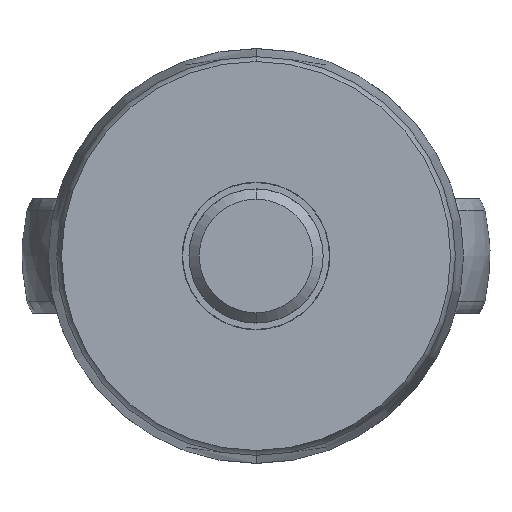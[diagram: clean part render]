
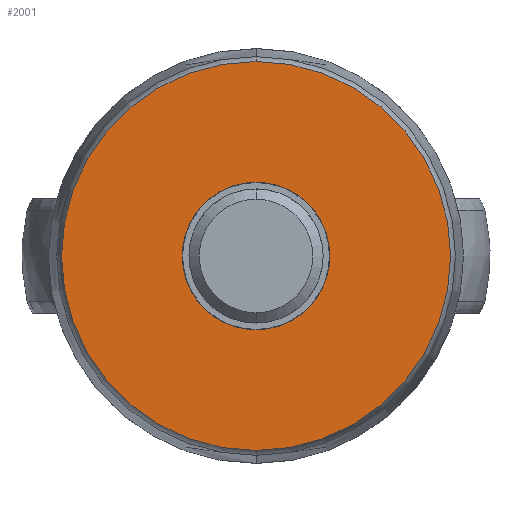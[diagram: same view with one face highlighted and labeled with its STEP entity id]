
A CAD part, front view. The second image highlights one B-rep face of the part: STEP entity #2001.
In plain terms, the highlighted planar face has unit normal (0, -1, 0).
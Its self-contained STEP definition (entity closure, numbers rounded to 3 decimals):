
#1851=CARTESIAN_POINT('Vertex',(0.,0.,29.)) ;
#1858=CARTESIAN_POINT('Vertex',(0.,0.,-29.)) ;
#1861=CARTESIAN_POINT('Axis2P3D Location',(0.,0.,0.)) ;
#1865=CARTESIAN_POINT('Vertex',(-29.,0.,0.)) ;
#1868=CARTESIAN_POINT('Axis2P3D Location',(0.,0.,0.)) ;
#1887=CARTESIAN_POINT('Axis2P3D Location',(0.,0.,0.)) ;
#1891=CARTESIAN_POINT('Vertex',(29.,0.,0.)) ;
#1894=CARTESIAN_POINT('Axis2P3D Location',(0.,0.,0.)) ;
#1908=CARTESIAN_POINT('Axis2P3D Location',(29.,0.,0.)) ;
#1920=CARTESIAN_POINT('Control Point',(0.,0.,-11.)) ;
#1921=CARTESIAN_POINT('Control Point',(1.137,0.,-11.)) ;
#1922=CARTESIAN_POINT('Control Point',(2.275,0.,-10.853)) ;
#1923=CARTESIAN_POINT('Control Point',(3.387,0.,-10.559)) ;
#1924=CARTESIAN_POINT('Control Point',(5.509,0.,-9.69)) ;
#1925=CARTESIAN_POINT('Control Point',(7.342,0.,-8.31)) ;
#1926=CARTESIAN_POINT('Control Point',(8.163,0.,-7.505)) ;
#1927=CARTESIAN_POINT('Control Point',(9.579,0.,-5.701)) ;
#1928=CARTESIAN_POINT('Control Point',(10.49,0.,-3.596)) ;
#1929=CARTESIAN_POINT('Control Point',(10.806,0.,-2.49)) ;
#1930=CARTESIAN_POINT('Control Point',(10.982,0.,-1.312)) ;
#1931=CARTESIAN_POINT('Control Point',(10.999,0.,-0.131)) ;
#1932=CARTESIAN_POINT('Control Point',(11.,0.,-0.087)) ;
#1933=CARTESIAN_POINT('Control Point',(11.,0.,-0.044)) ;
#1934=CARTESIAN_POINT('Control Point',(11.,0.,0.)) ;
#1935=CARTESIAN_POINT('Vertex',(0.,0.,-11.)) ;
#1937=CARTESIAN_POINT('Vertex',(11.,0.,0.)) ;
#1941=CARTESIAN_POINT('Control Point',(-11.,0.,0.)) ;
#1942=CARTESIAN_POINT('Control Point',(-11.,0.,-1.137)) ;
#1943=CARTESIAN_POINT('Control Point',(-10.853,0.,-2.275)) ;
#1944=CARTESIAN_POINT('Control Point',(-10.559,0.,-3.387)) ;
#1945=CARTESIAN_POINT('Control Point',(-9.69,0.,-5.509)) ;
#1946=CARTESIAN_POINT('Control Point',(-8.31,0.,-7.342)) ;
#1947=CARTESIAN_POINT('Control Point',(-7.505,0.,-8.163)) ;
#1948=CARTESIAN_POINT('Control Point',(-5.701,0.,-9.579)) ;
#1949=CARTESIAN_POINT('Control Point',(-3.596,0.,-10.49)) ;
#1950=CARTESIAN_POINT('Control Point',(-2.49,0.,-10.806)) ;
#1951=CARTESIAN_POINT('Control Point',(-1.312,0.,-10.982)) ;
#1952=CARTESIAN_POINT('Control Point',(-0.131,0.,-10.999)) ;
#1953=CARTESIAN_POINT('Control Point',(-0.087,0.,-11.)) ;
#1954=CARTESIAN_POINT('Control Point',(-0.044,0.,-11.)) ;
#1955=CARTESIAN_POINT('Control Point',(0.,0.,-11.)) ;
#1956=CARTESIAN_POINT('Vertex',(-11.,0.,0.)) ;
#1960=CARTESIAN_POINT('Control Point',(0.,0.,11.)) ;
#1961=CARTESIAN_POINT('Control Point',(-1.137,0.,11.)) ;
#1962=CARTESIAN_POINT('Control Point',(-2.275,0.,10.853)) ;
#1963=CARTESIAN_POINT('Control Point',(-3.387,0.,10.559)) ;
#1964=CARTESIAN_POINT('Control Point',(-5.509,0.,9.69)) ;
#1965=CARTESIAN_POINT('Control Point',(-7.342,0.,8.31)) ;
#1966=CARTESIAN_POINT('Control Point',(-8.163,0.,7.505)) ;
#1967=CARTESIAN_POINT('Control Point',(-9.579,0.,5.701)) ;
#1968=CARTESIAN_POINT('Control Point',(-10.49,0.,3.596)) ;
#1969=CARTESIAN_POINT('Control Point',(-10.806,0.,2.49)) ;
#1970=CARTESIAN_POINT('Control Point',(-10.982,0.,1.312)) ;
#1971=CARTESIAN_POINT('Control Point',(-10.999,0.,0.131)) ;
#1972=CARTESIAN_POINT('Control Point',(-11.,0.,0.087)) ;
#1973=CARTESIAN_POINT('Control Point',(-11.,0.,0.044)) ;
#1974=CARTESIAN_POINT('Control Point',(-11.,0.,0.)) ;
#1975=CARTESIAN_POINT('Vertex',(0.,0.,11.)) ;
#1979=CARTESIAN_POINT('Control Point',(11.,0.,0.)) ;
#1980=CARTESIAN_POINT('Control Point',(11.,0.,1.137)) ;
#1981=CARTESIAN_POINT('Control Point',(10.853,0.,2.275)) ;
#1982=CARTESIAN_POINT('Control Point',(10.559,0.,3.387)) ;
#1983=CARTESIAN_POINT('Control Point',(9.69,0.,5.509)) ;
#1984=CARTESIAN_POINT('Control Point',(8.31,0.,7.342)) ;
#1985=CARTESIAN_POINT('Control Point',(7.505,0.,8.163)) ;
#1986=CARTESIAN_POINT('Control Point',(5.701,0.,9.579)) ;
#1987=CARTESIAN_POINT('Control Point',(3.596,0.,10.49)) ;
#1988=CARTESIAN_POINT('Control Point',(2.49,0.,10.806)) ;
#1989=CARTESIAN_POINT('Control Point',(1.312,0.,10.982)) ;
#1990=CARTESIAN_POINT('Control Point',(0.131,0.,10.999)) ;
#1991=CARTESIAN_POINT('Control Point',(0.087,0.,11.)) ;
#1992=CARTESIAN_POINT('Control Point',(0.044,0.,11.)) ;
#1993=CARTESIAN_POINT('Control Point',(0.,0.,11.)) ;
#1862=DIRECTION('Axis2P3D Direction',(0.,1.,0.)) ;
#1869=DIRECTION('Axis2P3D Direction',(0.,1.,0.)) ;
#1888=DIRECTION('Axis2P3D Direction',(0.,1.,0.)) ;
#1895=DIRECTION('Axis2P3D Direction',(0.,1.,0.)) ;
#1909=DIRECTION('Axis2P3D Direction',(0.,1.,0.)) ;
#1910=DIRECTION('Axis2P3D XDirection',(0.,-0.,1.)) ;
#1863=AXIS2_PLACEMENT_3D('Circle Axis2P3D',#1861,#1862,$) ;
#1870=AXIS2_PLACEMENT_3D('Circle Axis2P3D',#1868,#1869,$) ;
#1889=AXIS2_PLACEMENT_3D('Circle Axis2P3D',#1887,#1888,$) ;
#1896=AXIS2_PLACEMENT_3D('Circle Axis2P3D',#1894,#1895,$) ;
#1911=AXIS2_PLACEMENT_3D('Plane Axis2P3D',#1908,#1909,#1910) ;
#1914=ORIENTED_EDGE('',*,*,#1893,.T.) ;
#1915=ORIENTED_EDGE('',*,*,#1872,.T.) ;
#1916=ORIENTED_EDGE('',*,*,#1867,.T.) ;
#1917=ORIENTED_EDGE('',*,*,#1898,.T.) ;
#1996=ORIENTED_EDGE('',*,*,#1939,.F.) ;
#1997=ORIENTED_EDGE('',*,*,#1958,.F.) ;
#1998=ORIENTED_EDGE('',*,*,#1977,.F.) ;
#1999=ORIENTED_EDGE('',*,*,#1994,.F.) ;
#2000=FACE_BOUND('',#1995,.T.) ;
#2001=ADVANCED_FACE('_C817XC20',(#1918,#2000),#1912,.F.) ;
#1919=B_SPLINE_CURVE_WITH_KNOTS('',5,(#1920,#1921,#1922,#1923,#1924,#1925,#1926,#1927,#1928,#1929,#1930,#1931,#1932,#1933,#1934),.UNSPECIFIED.,.F.,.U.,(6,3,3,3,6),(0.,8.064,16.127,24.19,24.5),.UNSPECIFIED.) ;
#1940=B_SPLINE_CURVE_WITH_KNOTS('',5,(#1941,#1942,#1943,#1944,#1945,#1946,#1947,#1948,#1949,#1950,#1951,#1952,#1953,#1954,#1955),.UNSPECIFIED.,.F.,.U.,(6,3,3,3,6),(0.,8.064,16.129,24.193,24.503),.UNSPECIFIED.) ;
#1959=B_SPLINE_CURVE_WITH_KNOTS('',5,(#1960,#1961,#1962,#1963,#1964,#1965,#1966,#1967,#1968,#1969,#1970,#1971,#1972,#1973,#1974),.UNSPECIFIED.,.F.,.U.,(6,3,3,3,6),(0.,8.064,16.127,24.19,24.5),.UNSPECIFIED.) ;
#1978=B_SPLINE_CURVE_WITH_KNOTS('',5,(#1979,#1980,#1981,#1982,#1983,#1984,#1985,#1986,#1987,#1988,#1989,#1990,#1991,#1992,#1993),.UNSPECIFIED.,.F.,.U.,(6,3,3,3,6),(0.,8.064,16.129,24.193,24.503),.UNSPECIFIED.) ;
#1864=CIRCLE('generated circle',#1863,29.) ;
#1871=CIRCLE('generated circle',#1870,29.) ;
#1890=CIRCLE('generated circle',#1889,29.) ;
#1897=CIRCLE('generated circle',#1896,29.) ;
#1867=EDGE_CURVE('',#1866,#1859,#1864,.F.) ;
#1872=EDGE_CURVE('',#1852,#1866,#1871,.F.) ;
#1893=EDGE_CURVE('',#1892,#1852,#1890,.F.) ;
#1898=EDGE_CURVE('',#1859,#1892,#1897,.F.) ;
#1939=EDGE_CURVE('',#1936,#1938,#1919,.T.) ;
#1958=EDGE_CURVE('',#1957,#1936,#1940,.T.) ;
#1977=EDGE_CURVE('',#1976,#1957,#1959,.T.) ;
#1994=EDGE_CURVE('',#1938,#1976,#1978,.T.) ;
#1913=EDGE_LOOP('',(#1914,#1915,#1916,#1917)) ;
#1995=EDGE_LOOP('',(#1996,#1997,#1998,#1999)) ;
#1918=FACE_OUTER_BOUND('',#1913,.T.) ;
#1912=PLANE('Plane',#1911) ;
#1852=VERTEX_POINT('',#1851) ;
#1859=VERTEX_POINT('',#1858) ;
#1866=VERTEX_POINT('',#1865) ;
#1892=VERTEX_POINT('',#1891) ;
#1936=VERTEX_POINT('',#1935) ;
#1938=VERTEX_POINT('',#1937) ;
#1957=VERTEX_POINT('',#1956) ;
#1976=VERTEX_POINT('',#1975) ;
